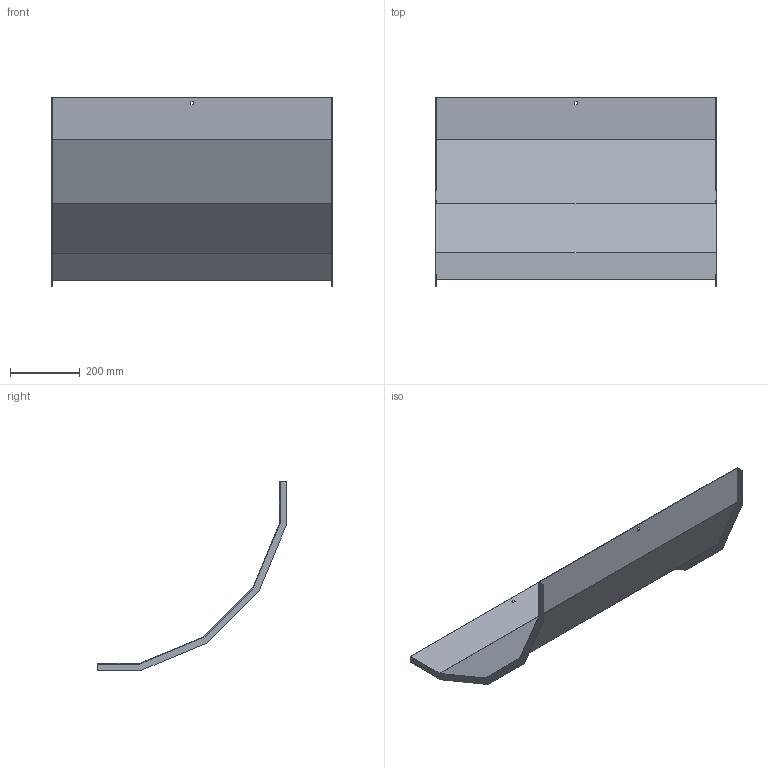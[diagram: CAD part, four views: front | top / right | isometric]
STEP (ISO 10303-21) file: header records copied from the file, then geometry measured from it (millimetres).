
FILE_DESCRIPTION (( 'STEP AP214' ), '1' );
FILE_NAME ('30N5R800_H150.step', '2025-02-21T14:29:52', ( '' ), ( '' ), 'SwSTEP 2.0', 'SolidWorks 2023', '' );
FILE_SCHEMA (( 'AUTOMOTIVE_DESIGN' ));
Length unit declared in the file: millimetre
Products named in the file (1): 30N5R800_H150
Bounding box: 803 x 540.72 x 540.72 mm (x, y, z)
Volume: 1056831.4 mm3; surface area: 1414324.5 mm2
Topology: 1 solids, 1 shells, 34 faces, 96 edges, 64 vertices
Faces by surface type: plane 34
Entity records: 1111 total; most frequent: CARTESIAN_POINT 195, ORIENTED_EDGE 192, DIRECTION 166, VECTOR 96, EDGE_CURVE 96, LINE 96, VERTEX_POINT 64, EDGE_LOOP 38
